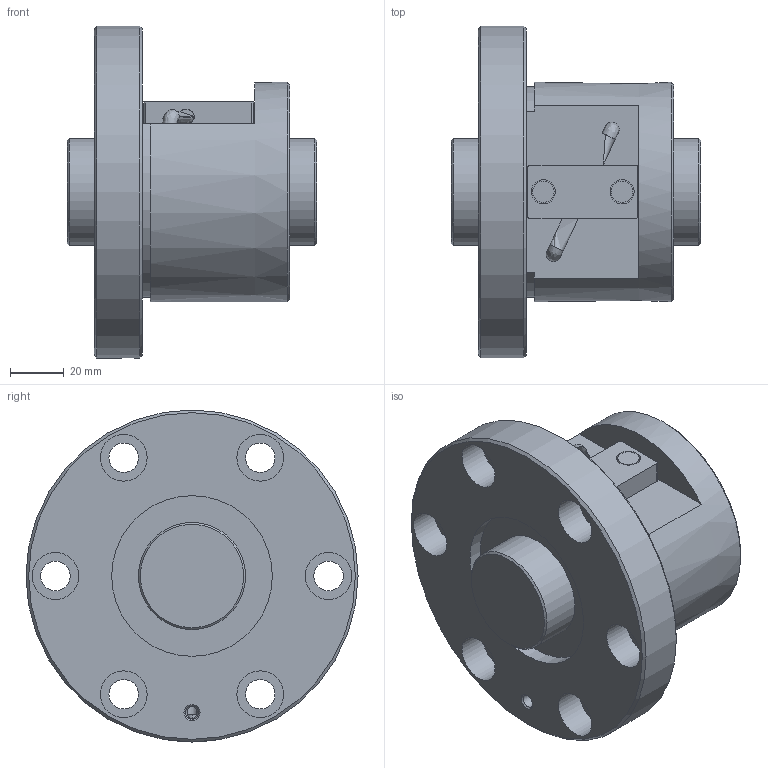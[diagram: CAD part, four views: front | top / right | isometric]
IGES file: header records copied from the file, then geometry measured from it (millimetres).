
Start section: Data from Parasolid IGES Translator 26.0.171, Copyright(c) 2006 Siemens PLM Software. All Rights Reserved.
Global section: file name: BNF4010V-2.5RRG1+93LC0_000_rev.igs; native system: By Siemens PLM Incorporated; preprocessor: XPlus GENERIC/IGES 26.0.171; author: Noname; organization: Noname; date: 20240806.084043; units: millimetre
Bounding box: 93 x 124 x 124 mm (x, y, z)
Surface area: 74120.3 mm2 (no closed solid volume)
Topology: 0 solids, 0 shells, 71 faces, 310 edges, 270 vertices
Faces by surface type: revolution 44, extrusion 27
